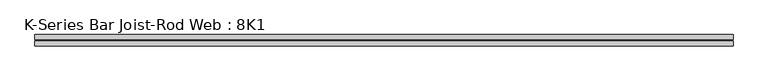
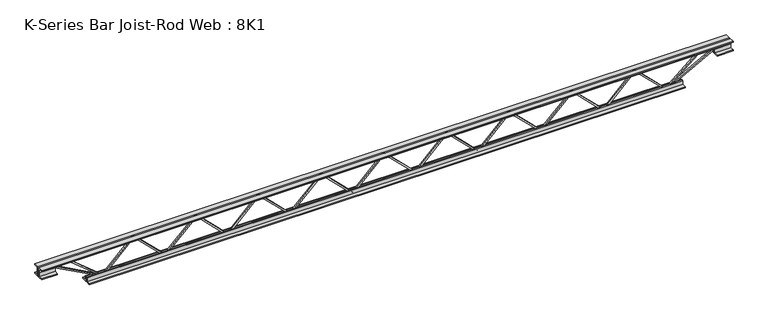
"""IFC4 building model written with IfcOpenShell, lengths in millimetres: beam geometry, K-Series Bar Joist-Rod Web : 8K1."""

from ifc_helpers import new_model, si_unit, frame, origin, place, context, project, spatial, polyline, outline, extrude, source, transform, mapped, element, save


def k_series_bar_joist_rod_web_8k1_70c83856(model_context):
    return source(origin(), model_context, "Body", "SweptSolid", [
        extrude(outline(polyline([(-90.4875, 997.1394773), (-100.0125, 997.1394773), (-100.0125, 1002.2684463), (90.4875, 1195.3463418), (90.4875, 1197.7884038), (-100.0125, 1390.8662992), (-100.0125, 1395.9952683), (-90.4875, 1395.9952683), (-90.4875, 1394.7742373), (100.0125, 1201.6963418), (100.0125, 1191.4384038), (-90.4875, 998.3605083), (-90.4875, 997.1394773)])), frame((0.0, -4.7625, 0.0), z_axis=(0.0, 1.0, 0.0), x_axis=(0.0, 0.0, 1.0)), (0.0, 0.0, 1.0), 9.525),
        extrude(outline(polyline([(-90.4875, 598.2836864), (-100.0125, 598.2836864), (-100.0125, 603.4126554), (90.4875, 796.4905509), (90.4875, 798.9326128), (-100.0125, 992.0105083), (-100.0125, 997.1394773), (-90.4875, 997.1394773), (-90.4875, 995.9184463), (100.0125, 802.8405509), (100.0125, 792.5826128), (-90.4875, 599.5047174), (-90.4875, 598.2836864)])), frame((0.0, -4.7625, 0.0), z_axis=(0.0, 1.0, 0.0), x_axis=(0.0, 0.0, 1.0)), (0.0, 0.0, 1.0), 9.525),
        extrude(outline(polyline([(-90.4875, 199.4278955), (-100.0125, 199.4278955), (-100.0125, 204.5568645), (90.4875, 397.63476), (90.4875, 400.0768219), (-100.0125, 593.1547174), (-100.0125, 598.2836864), (-90.4875, 598.2836864), (-90.4875, 597.0626554), (100.0125, 403.98476), (100.0125, 393.7268219), (-90.4875, 200.6489264), (-90.4875, 199.4278955)])), frame((0.0, -4.7625, 0.0), z_axis=(0.0, 1.0, 0.0), x_axis=(0.0, 0.0, 1.0)), (0.0, 0.0, 1.0), 9.525),
        extrude(outline(polyline([(-90.4875, -199.4278955), (-100.0125, -199.4278955), (-100.0125, -194.2989264), (90.4875, -1.221031), (90.4875, 1.221031), (-100.0125, 194.2989264), (-100.0125, 199.4278955), (-90.4875, 199.4278955), (-90.4875, 198.2068645), (100.0125, 5.128969), (100.0125, -5.128969), (-90.4875, -198.2068645), (-90.4875, -199.4278955)])), frame((0.0, -4.7625, 0.0), z_axis=(0.0, 1.0, 0.0), x_axis=(0.0, 0.0, 1.0)), (0.0, 0.0, 1.0), 9.525),
        extrude(outline(polyline([(-90.4875, -598.2836864), (-100.0125, -598.2836864), (-100.0125, -593.1547174), (90.4875, -400.0768219), (90.4875, -397.63476), (-100.0125, -204.5568645), (-100.0125, -199.4278955), (-90.4875, -199.4278955), (-90.4875, -200.6489264), (100.0125, -393.7268219), (100.0125, -403.98476), (-90.4875, -597.0626554), (-90.4875, -598.2836864)])), frame((0.0, -4.7625, 0.0), z_axis=(0.0, 1.0, 0.0), x_axis=(0.0, 0.0, 1.0)), (0.0, 0.0, 1.0), 9.525),
        extrude(outline(polyline([(-90.4875, -997.1394773), (-100.0125, -997.1394773), (-100.0125, -992.0105083), (90.4875, -798.9326128), (90.4875, -796.4905509), (-100.0125, -603.4126554), (-100.0125, -598.2836864), (-90.4875, -598.2836864), (-90.4875, -599.5047174), (100.0125, -792.5826128), (100.0125, -802.8405509), (-90.4875, -995.9184463), (-90.4875, -997.1394773)])), frame((0.0, -4.7625, 0.0), z_axis=(0.0, 1.0, 0.0), x_axis=(0.0, 0.0, 1.0)), (0.0, 0.0, 1.0), 9.525),
        extrude(outline(polyline([(-90.4875, -1395.9952683), (-100.0125, -1395.9952683), (-100.0125, -1390.8662992), (90.4875, -1197.7884038), (90.4875, -1195.3463418), (-100.0125, -1002.2684463), (-100.0125, -997.1394773), (-90.4875, -997.1394773), (-90.4875, -998.3605083), (100.0125, -1191.4384038), (100.0125, -1201.6963418), (-90.4875, -1394.7742373), (-90.4875, -1395.9952683)])), frame((0.0, -4.7625, 0.0), z_axis=(0.0, 1.0, 0.0), x_axis=(0.0, 0.0, 1.0)), (0.0, 0.0, 1.0), 9.525),
        extrude(outline(polyline([(-90.4875, 1395.9952683), (-100.0125, 1395.9952683), (-100.0125, 1401.1242373), (90.4875, 1594.2021327), (90.4875, 1596.6441947), (-100.0125, 1789.7220902), (-100.0125, 1794.8510592), (-90.4875, 1794.8510592), (-90.4875, 1793.6300282), (100.0125, 1600.5521327), (100.0125, 1590.2941947), (-90.4875, 1397.2162992), (-90.4875, 1395.9952683)])), frame((0.0, -4.7625, 0.0), z_axis=(0.0, 1.0, 0.0), x_axis=(0.0, 0.0, 1.0)), (0.0, 0.0, 1.0), 9.525),
        extrude(outline(polyline([(-90.4875, -1794.8510592), (-100.0125, -1794.8510592), (-100.0125, -1789.7220902), (90.4875, -1596.6441947), (90.4875, -1594.2021327), (-100.0125, -1401.1242373), (-100.0125, -1395.9952683), (-90.4875, -1395.9952683), (-90.4875, -1397.2162992), (100.0125, -1590.2941947), (100.0125, -1600.5521327), (-90.4875, -1793.6300282), (-90.4875, -1794.8510592)])), frame((0.0, -4.7625, 0.0), z_axis=(0.0, 1.0, 0.0), x_axis=(0.0, 0.0, 1.0)), (0.0, 0.0, 1.0), 9.525),
        extrude(outline(polyline([(4.7625, 101.6), (36.5125, 101.6), (36.5125, 95.25), (11.1125, 95.25), (11.1125, 69.85), (4.7625, 69.85), (4.7625, 101.6)])), frame((-2201.2510592, 0.0, 0.0), z_axis=(1.0, 0.0, 0.0), x_axis=(0.0, 1.0, 0.0)), (0.0, 0.0, 1.0), 4402.5021184),
        extrude(outline(polyline([(-4.7625, 101.6), (-4.7625, 69.85), (-11.1125, 69.85), (-11.1125, 95.25), (-36.5125, 95.25), (-36.5125, 101.6), (-4.7625, 101.6)])), frame((-2201.2510592, 0.0, 0.0), z_axis=(1.0, 0.0, 0.0), x_axis=(0.0, 1.0, 0.0)), (0.0, 0.0, 1.0), 4402.5021184),
        extrude(outline(polyline([(-4.7625, 38.1), (-36.5125, 38.1), (-36.5125, 44.45), (-11.1125, 44.45), (-11.1125, 69.85), (-4.7625, 69.85), (-4.7625, 38.1)])), frame((-2201.2510592, 0.0, 0.0), z_axis=(1.0, 0.0, 0.0), x_axis=(0.0, 1.0, 0.0)), (0.0, 0.0, 1.0), 101.6),
        extrude(outline(polyline([(36.5125, 38.1), (4.7625, 38.1), (4.7625, 69.85), (11.1125, 69.85), (11.1125, 44.45), (36.5125, 44.45), (36.5125, 38.1)])), frame((-2201.2510592, 0.0, 0.0), z_axis=(1.0, 0.0, 0.0), x_axis=(0.0, 1.0, 0.0)), (0.0, 0.0, 1.0), 101.6),
        extrude(outline(polyline([(4.7625, 38.1), (4.7625, 69.85), (11.1125, 69.85), (11.1125, 44.45), (36.5125, 44.45), (36.5125, 38.1), (4.7625, 38.1)])), frame((2099.6510592, 0.0, 0.0), z_axis=(1.0, 0.0, 0.0), x_axis=(0.0, 1.0, 0.0)), (0.0, 0.0, 1.0), 101.6),
        extrude(outline(polyline([(-4.7625, 38.1), (-36.5125, 38.1), (-36.5125, 44.45), (-11.1125, 44.45), (-11.1125, 69.85), (-4.7625, 69.85), (-4.7625, 38.1)])), frame((2099.6510592, 0.0, 0.0), z_axis=(1.0, 0.0, 0.0), x_axis=(0.0, 1.0, 0.0)), (0.0, 0.0, 1.0), 101.6),
        extrude(outline(polyline([(4.7625, -101.6), (4.7625, -69.85), (11.1125, -69.85), (11.1125, -95.25), (36.5125, -95.25), (36.5125, -101.6), (4.7625, -101.6)])), frame((-1896.4510592, 0.0, 0.0), z_axis=(1.0, 0.0, 0.0), x_axis=(0.0, 1.0, 0.0)), (0.0, 0.0, 1.0), 3792.9021184),
        extrude(outline(polyline([(-4.7625, -101.6), (-36.5125, -101.6), (-36.5125, -95.25), (-11.1125, -95.25), (-11.1125, -69.85), (-4.7625, -69.85), (-4.7625, -101.6)])), frame((-1896.4510592, 0.0, 0.0), z_axis=(1.0, 0.0, 0.0), x_axis=(0.0, 1.0, 0.0)), (0.0, 0.0, 1.0), 3792.9021184),
        extrude(outline(polyline([(0.0, -9.525), (0.0, 0.0), (346.6425392, 0.0), (346.6425392, -9.525), (0.0, -9.525)])), frame((-2101.9193577, 4.7625, 65.662372), z_axis=(0.47628314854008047, 0.0, 0.8792919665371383), x_axis=(0.8792919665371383, 0.0, -0.47628314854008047)), (0.0, 0.0, 1.0), 9.525),
        extrude(outline(polyline([(0.0, -9.525), (0.0, 0.0), (258.9005514, 0.0), (258.9005514, -9.525), (0.0, -9.525)])), frame((-1997.3159847, 4.7625, 66.1815051), z_axis=(0.637696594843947, 0.0, 0.770287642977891), x_axis=(0.770287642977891, 0.0, -0.637696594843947)), (0.0, 0.0, 1.0), 9.525),
        extrude(outline(polyline([(0.0, -9.525), (0.0, 0.0), (346.6425392, 0.0), (346.6425392, -9.525), (0.0, -9.525)])), frame((2101.9193577, -4.7625, 65.662372), z_axis=(-0.47628314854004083, 0.0, 0.8792919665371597), x_axis=(-0.8792919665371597, 0.0, -0.47628314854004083)), (0.0, 0.0, 1.0), 9.525),
        extrude(outline(polyline([(0.0, -9.525), (0.0, 0.0), (258.9005514, 0.0), (258.9005514, -9.525), (0.0, -9.525)])), frame((1997.3159847, -4.7625, 66.1815051), z_axis=(-0.6376965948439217, 0.0, 0.770287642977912), x_axis=(-0.770287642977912, 0.0, -0.6376965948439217)), (0.0, 0.0, 1.0), 9.525),
    ])


if __name__ == "__main__":
    model = new_model("IFC4")
    model_context = context("Model", 3, world=origin())
    ifc_project = project(units=[si_unit("LENGTHUNIT", "METRE", prefix="MILLI")], contexts=[model_context])
    site = spatial("IfcSite", under=ifc_project)
    building = spatial("IfcBuilding", under=site)
    placement = place(None, origin())
    k_series_bar_joist_rod_web_8k1_shape = k_series_bar_joist_rod_web_8k1_70c83856(model_context)
    element("IfcBeam", 1, ObjectType="K-Series Bar Joist-Rod Web : 8K1", at=placement, inside=building, context=model_context, shape_type="MappedRepresentation", body=[
        mapped(k_series_bar_joist_rod_web_8k1_shape, transform((0.0, 0.0, 0.0), x_axis=(1.0, 0.0, 0.0), y_axis=(0.0, 1.0, 0.0), z_axis=(0.0, 0.0, 1.0))),
    ])
    save(model, "model.ifc")
